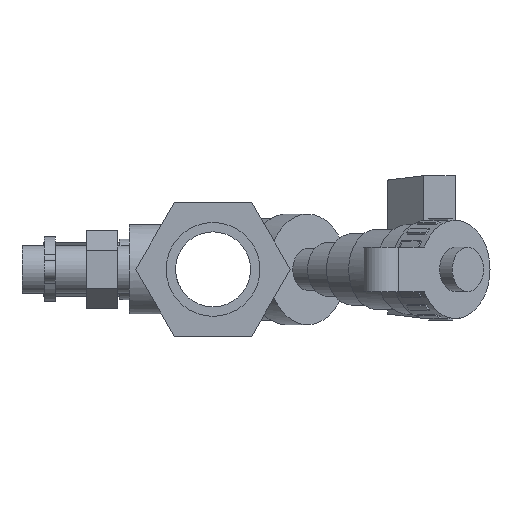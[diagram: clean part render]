
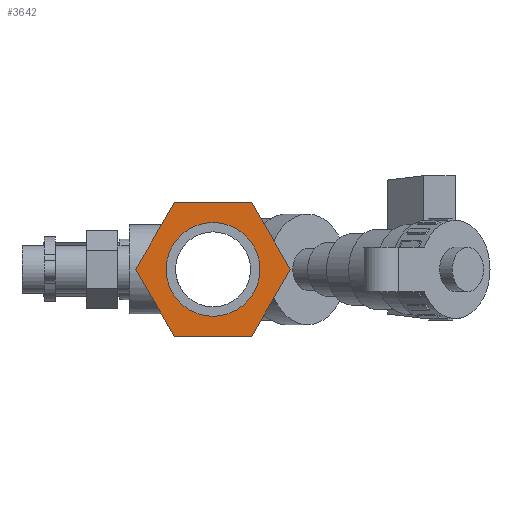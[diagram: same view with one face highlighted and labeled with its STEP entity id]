
A CAD part, left-side view. The second image highlights one B-rep face of the part: STEP entity #3642.
In plain terms, the highlighted planar face has unit normal (-1, 0, 0).
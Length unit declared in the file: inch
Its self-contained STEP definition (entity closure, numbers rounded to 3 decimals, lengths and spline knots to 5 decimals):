
#88=FACE_BOUND('',#531,.T.);
#145=PLANE('',#3913);
#310=FACE_OUTER_BOUND('',#530,.T.);
#530=EDGE_LOOP('',(#2588,#2589,#2590,#2591,#2592,#2593));
#531=EDGE_LOOP('',(#2594));
#792=LINE('',#5592,#1115);
#793=LINE('',#5594,#1116);
#794=LINE('',#5596,#1117);
#795=LINE('',#5598,#1118);
#796=LINE('',#5600,#1119);
#797=LINE('',#5601,#1120);
#1115=VECTOR('',#4440,0.3937);
#1116=VECTOR('',#4441,0.3937);
#1117=VECTOR('',#4442,0.3937);
#1118=VECTOR('',#4443,0.3937);
#1119=VECTOR('',#4444,0.3937);
#1120=VECTOR('',#4445,0.3937);
#1422=CIRCLE('',#3914,0.5255);
#1621=VERTEX_POINT('',#5590);
#1622=VERTEX_POINT('',#5591);
#1623=VERTEX_POINT('',#5593);
#1624=VERTEX_POINT('',#5595);
#1625=VERTEX_POINT('',#5597);
#1626=VERTEX_POINT('',#5599);
#1627=VERTEX_POINT('',#5602);
#1997=EDGE_CURVE('',#1621,#1622,#792,.T.);
#1998=EDGE_CURVE('',#1622,#1623,#793,.T.);
#1999=EDGE_CURVE('',#1623,#1624,#794,.T.);
#2000=EDGE_CURVE('',#1624,#1625,#795,.T.);
#2001=EDGE_CURVE('',#1625,#1626,#796,.T.);
#2002=EDGE_CURVE('',#1626,#1621,#797,.T.);
#2003=EDGE_CURVE('',#1627,#1627,#1422,.T.);
#2588=ORIENTED_EDGE('',*,*,#1997,.T.);
#2589=ORIENTED_EDGE('',*,*,#1998,.T.);
#2590=ORIENTED_EDGE('',*,*,#1999,.T.);
#2591=ORIENTED_EDGE('',*,*,#2000,.T.);
#2592=ORIENTED_EDGE('',*,*,#2001,.T.);
#2593=ORIENTED_EDGE('',*,*,#2002,.T.);
#2594=ORIENTED_EDGE('',*,*,#2003,.F.);
#3642=ADVANCED_FACE('',(#310,#88),#145,.T.);
#3913=AXIS2_PLACEMENT_3D('',#5589,#4438,#4439);
#3914=AXIS2_PLACEMENT_3D('',#5603,#4446,#4447);
#4438=DIRECTION('center_axis',(-1.,0.,0.));
#4439=DIRECTION('ref_axis',(0.,0.,1.));
#4440=DIRECTION('',(0.,1.,0.));
#4441=DIRECTION('',(0.,0.5,-0.866));
#4442=DIRECTION('',(0.,-0.5,-0.866));
#4443=DIRECTION('',(0.,-1.,0.));
#4444=DIRECTION('',(0.,-0.5,0.866));
#4445=DIRECTION('',(0.,0.5,0.866));
#4446=DIRECTION('center_axis',(-1.,0.,0.));
#4447=DIRECTION('ref_axis',(0.,1.,0.));
#5589=CARTESIAN_POINT('Origin',(-2.33,0.,0.));
#5590=CARTESIAN_POINT('',(-2.33,-0.43301,0.75));
#5591=CARTESIAN_POINT('',(-2.33,0.43301,0.75));
#5592=CARTESIAN_POINT('',(-2.33,0.43301,0.75));
#5593=CARTESIAN_POINT('',(-2.33,0.86603,0.));
#5594=CARTESIAN_POINT('',(-2.33,0.86603,0.));
#5595=CARTESIAN_POINT('',(-2.33,0.43301,-0.75));
#5596=CARTESIAN_POINT('',(-2.33,0.43301,-0.75));
#5597=CARTESIAN_POINT('',(-2.33,-0.43301,-0.75));
#5598=CARTESIAN_POINT('',(-2.33,-0.43301,-0.75));
#5599=CARTESIAN_POINT('',(-2.33,-0.86603,0.));
#5600=CARTESIAN_POINT('',(-2.33,-0.86603,0.));
#5601=CARTESIAN_POINT('',(-2.33,-0.43301,0.75));
#5602=CARTESIAN_POINT('',(-2.33,-0.5255,0.));
#5603=CARTESIAN_POINT('Origin',(-2.33,0.,0.));
